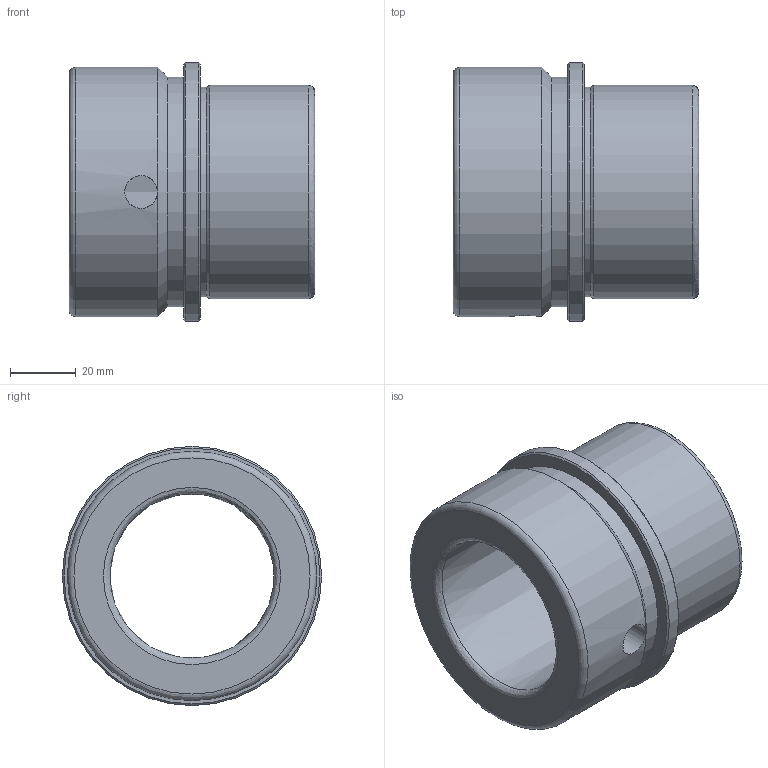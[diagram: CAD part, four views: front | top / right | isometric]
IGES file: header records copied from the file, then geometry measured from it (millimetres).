
Global section: file name: BBE50M.ipt; native system: Autodesk Inventor 2021; preprocessor: unknown; author: SM; date: 20211217.142727; units: millimetre
Bounding box: 75 x 79 x 79 mm (x, y, z)
Volume: 145697.3 mm3; surface area: 34827.8 mm2
Topology: 1 solids, 1 shells, 19 faces, 50 edges, 33 vertices
Faces by surface type: revolution 6, cylinder 5, plane 4, cone 4
Full cylindrical faces by diameter (mm): 64 x1, 65 x1, 70 x1, 76 x1, 79 x1
